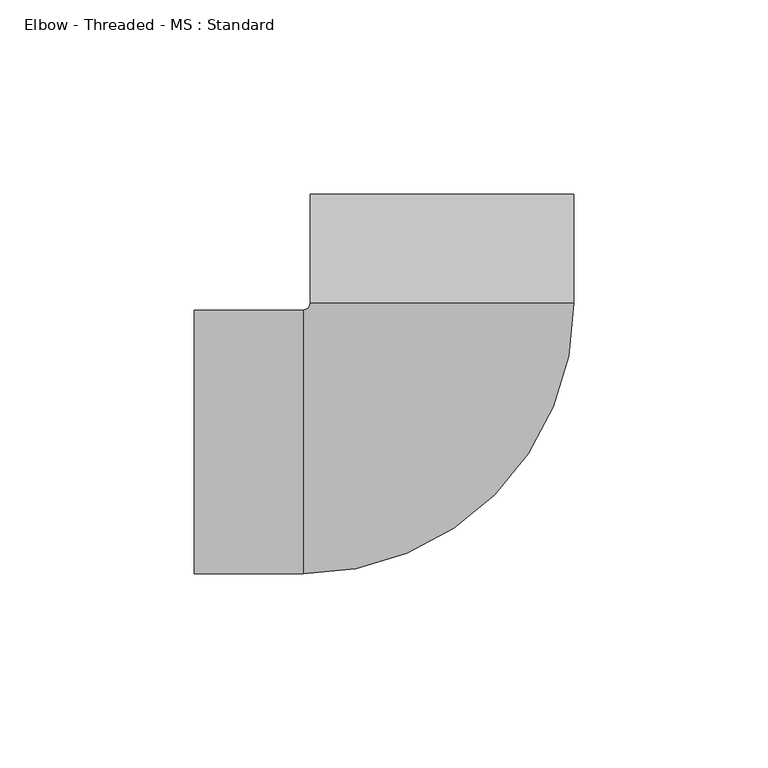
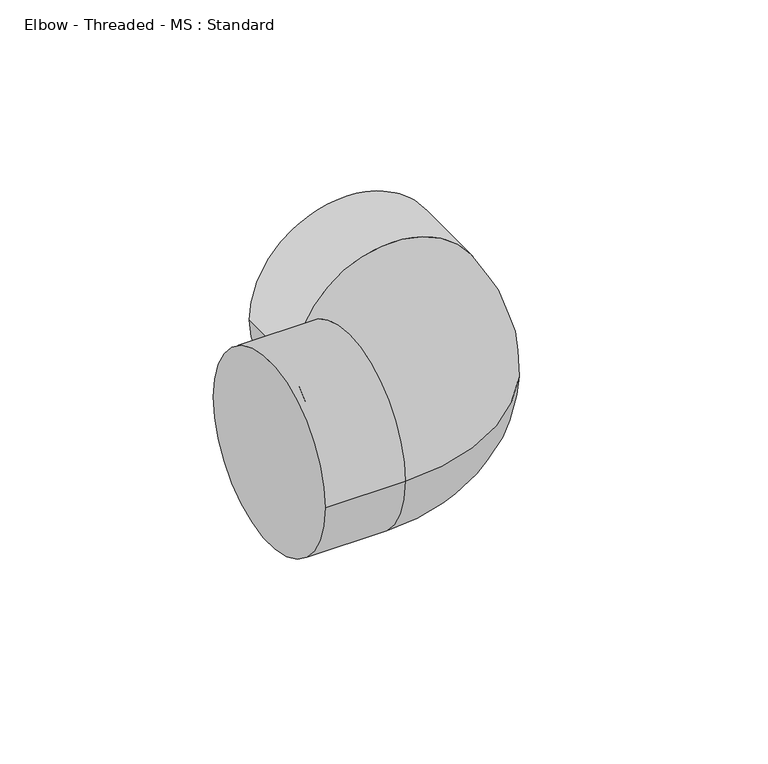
"""IFC4 building model written with IfcOpenShell, lengths in millimetres: pipe fitting geometry, Elbow - Threaded - MS : Standard."""

from ifc_helpers import new_model, si_unit, point, frame, origin, place, context, project, spatial, circle_curve, ellipse_curve, trimmed, source, transform, mapped, element, save
from ifc_brep_helpers import plane_surface, cylinder_surface, revolved_surface, advanced_brep


def elbow_threaded_ms_standard_96f3d6e5(model_context):
    return source(origin(), model_context, "Body", "AdvancedBrep", [
        advanced_brep(
        [(-63.9, -34.0, 0.0), (-63.9, 34.0, 0.0), (-35.784, -34.0, 0.0), (-35.784, 34.0, 0.0), (-33.9944092, 35.7893112, 0.0), (34.00559, 35.7786879, 0.0), (34.0099824, 63.8946876, 0.0), (-33.9900168, 63.9053109, 0.0)],
        [
            (0, 1, circle_curve(frame((-63.9, 0.0, 0.0), z_axis=(-1.0, 0.0, 0.0), x_axis=(0.0, 1.0, 0.0)), 34.0)),
            (1, 0, circle_curve(frame((-63.9, 0.0, 0.0), z_axis=(-1.0, 0.0, 0.0), x_axis=(0.0, 1.0, 0.0)), 34.0)),
            (0, 2),
            (2, 3, circle_curve(frame((-35.784, 0.0, 0.0), z_axis=(-1.0, 0.0, 0.0), x_axis=(0.0, 1.0, 0.0)), 34.0)),
            (3, 1),
            (3, 2, circle_curve(frame((-35.784, 0.0, 0.0), z_axis=(-1.0, 0.0, 0.0), x_axis=(0.0, 1.0, 0.0)), 34.0)),
            (4, 3, circle_curve(frame((-35.784, 35.7895908, 0.0), z_axis=(0.0, 0.0, -1.0), x_axis=(0.0, -1.0, 0.0)), 1.7895908)),
            (2, 5, circle_curve(frame((-35.784, 35.7895908, 0.0), z_axis=(0.0, 0.0, 1.0), x_axis=(0.0, -1.0, 0.0)), 69.7895908)),
            (5, 4, circle_curve(frame((0.0055904, 35.7839996, 0.0), z_axis=(-0.00015622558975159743, -0.9999999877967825, 0.0), x_axis=(-0.9999999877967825, 0.00015622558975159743, 0.0)), 34.0)),
            (4, 5, circle_curve(frame((0.0055904, 35.7839996, 0.0), z_axis=(-0.00015622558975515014, -0.9999999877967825, 0.0), x_axis=(-0.9999999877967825, 0.00015622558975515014, 0.0)), 34.0)),
            (6, 7, circle_curve(frame((0.0099828, 63.8999992, 0.0), z_axis=(0.0001562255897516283, 0.9999999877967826, 0.0), x_axis=(-0.9999999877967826, 0.0001562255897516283, 0.0)), 34.0)),
            (7, 6, circle_curve(frame((0.0099828, 63.8999992, 0.0), z_axis=(0.0001562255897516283, 0.9999999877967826, 0.0), x_axis=(-0.9999999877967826, 0.0001562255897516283, 0.0)), 34.0)),
            (5, 6),
            (7, 4),
        ],
        [
            plane_surface(frame((-63.9, 0.0, 0.0), z_axis=(-1.0, 0.0, 0.0), x_axis=(0.0, 0.0, 1.0))),
            cylinder_surface(frame((-63.9, 0.0, 0.0), z_axis=(-1.0, 0.0, 0.0), x_axis=(0.0, 1.0, 0.0)), 34.0),
            revolved_surface(trimmed(ellipse_curve(frame((-35.784, 0.0, 0.0), z_axis=(-1.0, 0.0, 0.0), x_axis=(0.0, 1.0, 0.0)), 34.0, 34.0), [point((-35.784, -34.0, 0.0))], [point((-35.784, 34.0, 0.0))], True, "CARTESIAN"), (-35.784, 35.7895908, 0.0), (0.0, 0.0, 1.0)),
            revolved_surface(trimmed(ellipse_curve(frame((-35.784, 0.0, 0.0), z_axis=(-1.0, 0.0, 0.0), x_axis=(0.0, 1.0, 0.0)), 34.0, 34.0), [point((-35.784, 34.0, 0.0))], [point((-35.784, -34.0, 0.0))], True, "CARTESIAN"), (-35.784, 35.7895908, 0.0), (0.0, 0.0, 1.0)),
            plane_surface(frame((0.0099828, 63.8999992, 0.0), z_axis=(0.00015622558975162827, 0.9999999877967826, 0.0), x_axis=(0.0, 0.0, 1.0))),
            cylinder_surface(frame((0.0055904, 35.7839996, 0.0), z_axis=(-0.0001562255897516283, -0.9999999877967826, 0.0), x_axis=(-0.9999999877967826, 0.0001562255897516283, 0.0)), 34.0),
        ],
        [
            (0, [[1, 2]]),
            (1, [[-1, 3, 4, 5]]),
            (1, [[-2, -5, 6, -3]]),
            (2, [[7, -4, 8, 9]]),
            (3, [[-8, -6, -7, 10]]),
            (4, [[11, 12]]),
            (5, [[-9, 13, -12, 14]]),
            (5, [[-10, -14, -11, -13]]),
        ],
    ),
    ])


if __name__ == "__main__":
    model = new_model("IFC4")
    model_context = context("Model", 3, world=origin())
    ifc_project = project(units=[si_unit("LENGTHUNIT", "METRE", prefix="MILLI")], contexts=[model_context])
    site = spatial("IfcSite", under=ifc_project)
    building = spatial("IfcBuilding", under=site)
    placement = place(None, origin())
    elbow_threaded_ms_standard_shape = elbow_threaded_ms_standard_96f3d6e5(model_context)
    element("IfcPipeFitting", 1, ObjectType="Elbow - Threaded - MS : Standard", at=placement, inside=building, context=model_context, shape_type="MappedRepresentation", body=[
        mapped(elbow_threaded_ms_standard_shape, transform((0.0, 0.0, 0.0), x_axis=(1.0, 0.0, 0.0), y_axis=(0.0, 1.0, 0.0), z_axis=(0.0, 0.0, 1.0))),
    ])
    save(model, "model.ifc")
